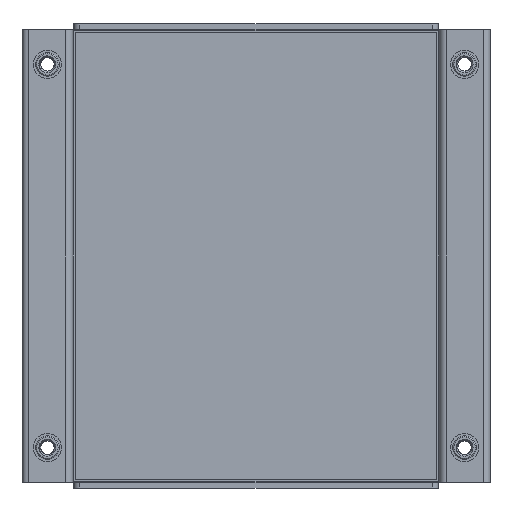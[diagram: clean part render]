
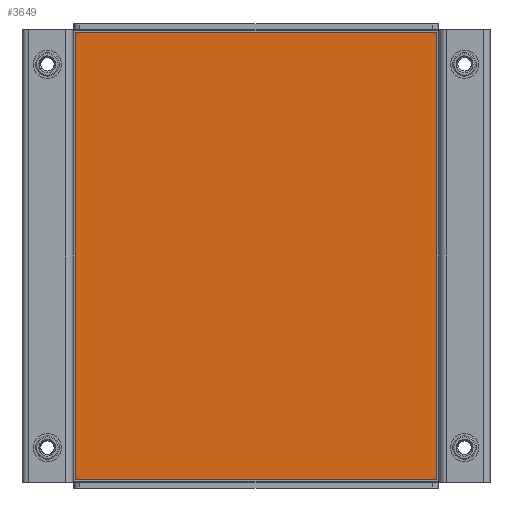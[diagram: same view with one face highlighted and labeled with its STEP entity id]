
A CAD part, front view. The second image highlights one B-rep face of the part: STEP entity #3649.
In plain terms, the highlighted planar face has unit normal (0, -1, 0).
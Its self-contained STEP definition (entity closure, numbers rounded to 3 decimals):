
#3534=DIRECTION('',(1.,0.,0.));
#3535=VECTOR('',#3534,64.);
#3536=CARTESIAN_POINT('',(-32.,-1.25,-39.65));
#3537=LINE('',#3536,#3535);
#3538=DIRECTION('',(0.,0.,-1.));
#3539=VECTOR('',#3538,79.3);
#3540=CARTESIAN_POINT('',(-32.,-1.25,39.65));
#3541=LINE('',#3540,#3539);
#3542=DIRECTION('',(-1.,0.,0.));
#3543=VECTOR('',#3542,64.);
#3544=CARTESIAN_POINT('',(32.,-1.25,39.65));
#3545=LINE('',#3544,#3543);
#3546=DIRECTION('',(0.,0.,1.));
#3547=VECTOR('',#3546,79.3);
#3548=CARTESIAN_POINT('',(32.,-1.25,-39.65));
#3549=LINE('',#3548,#3547);
#3558=CARTESIAN_POINT('',(-32.,-1.25,-39.65));
#3559=CARTESIAN_POINT('',(32.,-1.25,-39.65));
#3560=VERTEX_POINT('',#3558);
#3561=VERTEX_POINT('',#3559);
#3562=CARTESIAN_POINT('',(32.,-1.25,39.65));
#3563=VERTEX_POINT('',#3562);
#3564=CARTESIAN_POINT('',(-32.,-1.25,39.65));
#3565=VERTEX_POINT('',#3564);
#3638=CARTESIAN_POINT('',(0.,-1.25,0.));
#3639=DIRECTION('',(0.,-1.,0.));
#3640=DIRECTION('',(0.,0.,1.));
#3641=AXIS2_PLACEMENT_3D('',#3638,#3639,#3640);
#3642=PLANE('',#3641);
#3643=ORIENTED_EDGE('',*,*,#3590,.F.);
#3644=ORIENTED_EDGE('',*,*,#3605,.F.);
#3645=ORIENTED_EDGE('',*,*,#3619,.F.);
#3646=ORIENTED_EDGE('',*,*,#3632,.F.);
#3647=EDGE_LOOP('',(#3643,#3644,#3645,#3646));
#3648=FACE_OUTER_BOUND('',#3647,.F.);
#3590=EDGE_CURVE('',#3560,#3561,#3537,.T.);
#3605=EDGE_CURVE('',#3565,#3560,#3541,.T.);
#3619=EDGE_CURVE('',#3563,#3565,#3545,.T.);
#3632=EDGE_CURVE('',#3561,#3563,#3549,.T.);
#3649=ADVANCED_FACE('',(#3648),#3642,.T.);
